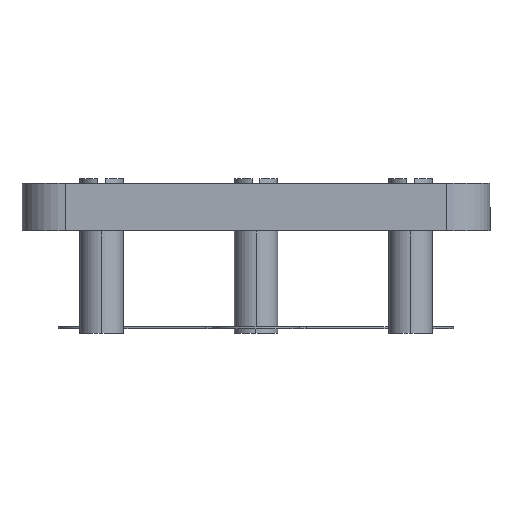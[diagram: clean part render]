
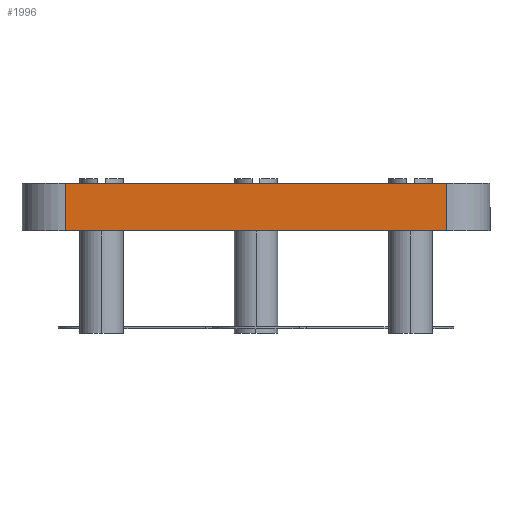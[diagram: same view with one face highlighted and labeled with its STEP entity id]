
A CAD part, left-side view. The second image highlights one B-rep face of the part: STEP entity #1996.
In plain terms, the highlighted planar face has unit normal (-1, 0, 0) as drawn and (1, 0, 0) by its records, which use the part's own axes.
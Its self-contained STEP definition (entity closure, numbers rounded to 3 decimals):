
#52 = CARTESIAN_POINT ( 'NONE',  ( 30.922, 0., 5.5 ) ) ;
#95 = FACE_OUTER_BOUND ( 'NONE', #1733, .T. ) ;
#123 = VECTOR ( 'NONE', #2584, 1000. ) ;
#263 = EDGE_CURVE ( 'NONE', #2238, #2696, #1033, .T. ) ;
#409 = VERTEX_POINT ( 'NONE', #1966 ) ;
#487 = DIRECTION ( 'NONE',  ( 0., 0., 1. ) ) ;
#509 = ORIENTED_EDGE ( 'NONE', *, *, #1048, .T. ) ;
#543 = DIRECTION ( 'NONE',  ( 0., -1., 0. ) ) ;
#565 = VECTOR ( 'NONE', #543, 1000. ) ;
#584 = EDGE_CURVE ( 'NONE', #2696, #1373, #701, .T. ) ;
#701 = LINE ( 'NONE', #2505, #1452 ) ;
#729 = LINE ( 'NONE', #52, #565 ) ;
#817 = ORIENTED_EDGE ( 'NONE', *, *, #263, .F. ) ;
#1033 = LINE ( 'NONE', #1316, #1075 ) ;
#1048 = EDGE_CURVE ( 'NONE', #2238, #409, #1679, .T. ) ;
#1075 = VECTOR ( 'NONE', #2205, 1000. ) ;
#1127 = ORIENTED_EDGE ( 'NONE', *, *, #2529, .T. ) ;
#1179 = PLANE ( 'NONE',  #1804 ) ;
#1316 = CARTESIAN_POINT ( 'NONE',  ( 30.922, 0., 0. ) ) ;
#1373 = VERTEX_POINT ( 'NONE', #1407 ) ;
#1407 = CARTESIAN_POINT ( 'NONE',  ( 30.922, -21.125, 5.5 ) ) ;
#1409 = DIRECTION ( 'NONE',  ( 0., -1., 0. ) ) ;
#1452 = VECTOR ( 'NONE', #487, 1000. ) ;
#1471 = CARTESIAN_POINT ( 'NONE',  ( 30.922, -21.125, 0. ) ) ;
#1678 = DIRECTION ( 'NONE',  ( -1., 0., 0. ) ) ;
#1679 = LINE ( 'NONE', #2396, #123 ) ;
#1729 = CARTESIAN_POINT ( 'NONE',  ( 30.922, 22.675, 0. ) ) ;
#1733 = EDGE_LOOP ( 'NONE', ( #509, #1127, #2704, #817 ) ) ;
#1804 = AXIS2_PLACEMENT_3D ( 'NONE', #2063, #1678, #1409 ) ;
#1966 = CARTESIAN_POINT ( 'NONE',  ( 30.922, 22.675, 5.5 ) ) ;
#1996 = ADVANCED_FACE ( 'NONE', ( #95 ), #1179, .F. ) ;
#2063 = CARTESIAN_POINT ( 'NONE',  ( 30.922, 0., -4.5 ) ) ;
#2205 = DIRECTION ( 'NONE',  ( 0., -1., 0. ) ) ;
#2238 = VERTEX_POINT ( 'NONE', #1729 ) ;
#2396 = CARTESIAN_POINT ( 'NONE',  ( 30.922, 22.675, -4.5 ) ) ;
#2505 = CARTESIAN_POINT ( 'NONE',  ( 30.922, -21.125, -4.5 ) ) ;
#2529 = EDGE_CURVE ( 'NONE', #409, #1373, #729, .T. ) ;
#2584 = DIRECTION ( 'NONE',  ( 0., 0., 1. ) ) ;
#2696 = VERTEX_POINT ( 'NONE', #1471 ) ;
#2704 = ORIENTED_EDGE ( 'NONE', *, *, #584, .F. ) ;
